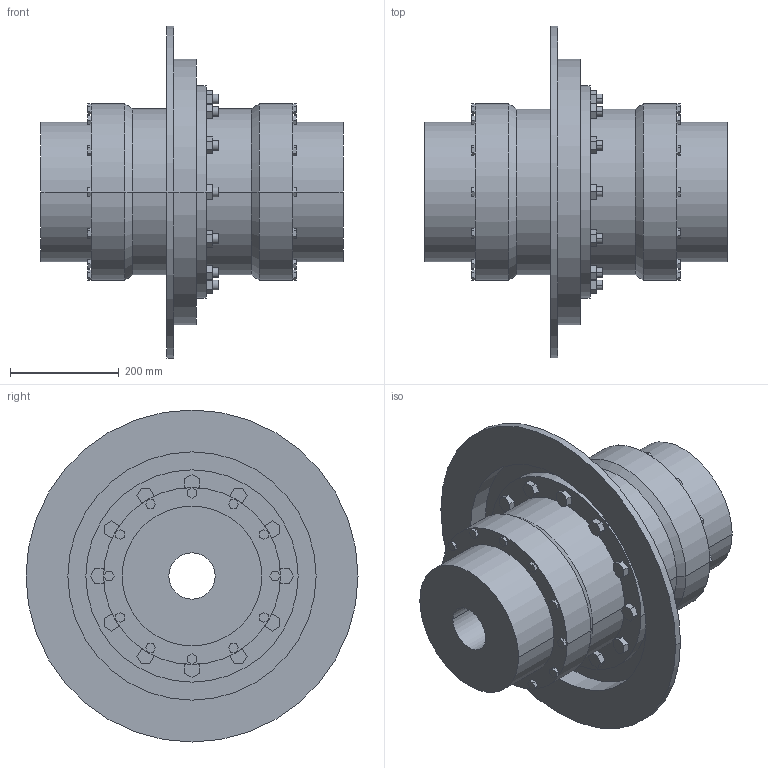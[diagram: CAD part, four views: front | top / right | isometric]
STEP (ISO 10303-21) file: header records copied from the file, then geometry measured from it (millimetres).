
FILE_DESCRIPTION((''),'2;1');
FILE_NAME('A19727700-0_ASM','2019-05-23T',('AB_Roschiwal'),('RENK AG'),'PRO/ENGINEER BY PARAMETRIC TECHNOLOGY CORPORATION, 2015440','PRO/ENGINEER BY PARAMETRIC TECHNOLOGY CORPORATION, 2015440','');
FILE_SCHEMA(('CONFIG_CONTROL_DESIGN'));
Length unit declared in the file: millimetre
Products named in the file (4): SBKT160_GEHAEUSE; SBKT160_NABE; SBKT160_BREMSSCHEIBE; A19727700-0_ASM
Assembly tree (4 placements, depth 2):
  A19727700-0_ASM
    SBKT160_GEHAEUSE
    SBKT160_NABE  x2
    SBKT160_BREMSSCHEIBE
Bounding box: 555 x 610 x 610 mm (x, y, z)
Volume: 30662337.6 mm3; surface area: 2238436 mm2
Topology: 4 solids, 4 shells, 470 faces, 1156 edges, 768 vertices
Faces by surface type: plane 370, cylinder 96, cone 4
Entity records: 13604 total; most frequent: CARTESIAN_POINT 2350, ORIENTED_EDGE 2264, DIRECTION 2240, EDGE_CURVE 1132, VECTOR 956, LINE 956, VERTEX_POINT 752, AXIS2_PLACEMENT_3D 642
